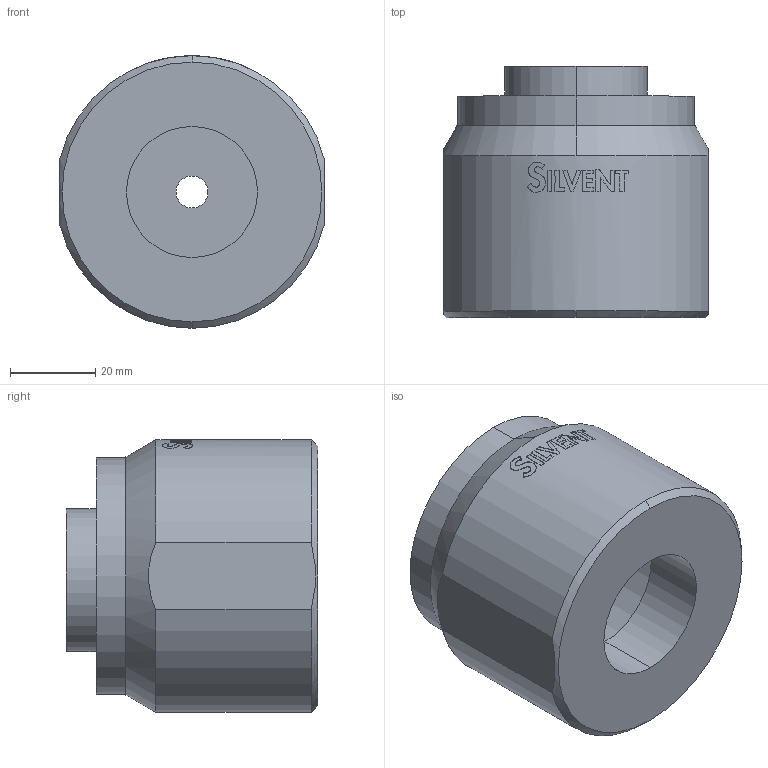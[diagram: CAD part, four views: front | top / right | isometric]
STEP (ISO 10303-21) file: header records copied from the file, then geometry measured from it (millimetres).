
FILE_DESCRIPTION (( 'STEP AP203' ), '1' );
FILE_NAME ('Silvent 735L.STEP', '2008-03-31T14:47:11', ( ' ' ), ( ' ' ), 'SwSTEP 2.0', 'SolidWorks 2006303', '' );
FILE_SCHEMA (( 'CONFIG_CONTROL_DESIGN' ));
Length unit declared in the file: millimetre
Products named in the file (1): Silvent 735L
Bounding box: 62 x 59 x 64 mm (x, y, z)
Volume: 102644.4 mm3; surface area: 25473.6 mm2
Topology: 1 solids, 1 shells, 159 faces, 434 edges, 288 vertices
Faces by surface type: cylinder 97, plane 56, cone 6
Entity records: 5450 total; most frequent: CARTESIAN_POINT 1735, ORIENTED_EDGE 868, DIRECTION 608, EDGE_CURVE 434, VERTEX_POINT 288, AXIS2_PLACEMENT_3D 220, EDGE_LOOP 172, VECTOR 168
